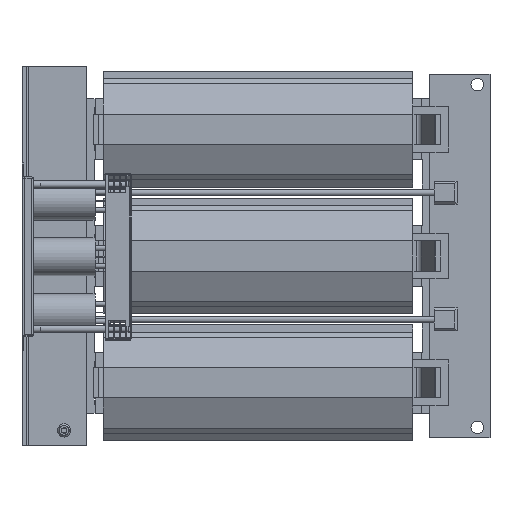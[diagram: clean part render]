
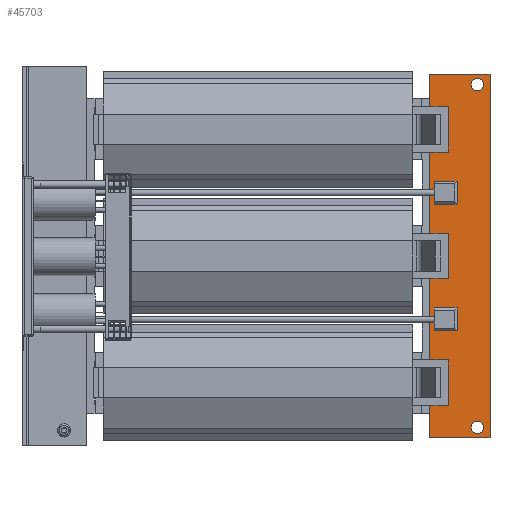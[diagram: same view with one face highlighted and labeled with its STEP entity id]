
A CAD part, front view. The second image highlights one B-rep face of the part: STEP entity #45703.
In plain terms, the highlighted planar face has unit normal (0, -1, 0).
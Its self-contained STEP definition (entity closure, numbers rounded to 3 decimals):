
#967=FACE_BOUND('',#6352,.T.);
#968=FACE_BOUND('',#6353,.T.);
#969=FACE_BOUND('',#6354,.T.);
#970=FACE_BOUND('',#6355,.T.);
#1805=CIRCLE('',#48189,12.5);
#1808=CIRCLE('',#48194,12.5);
#3815=FACE_OUTER_BOUND('',#6351,.T.);
#6351=EDGE_LOOP('',(#32922,#32923,#32924,#32925));
#6352=EDGE_LOOP('',(#32926,#32927,#32928,#32929));
#6353=EDGE_LOOP('',(#32930,#32931,#32932,#32933));
#6354=EDGE_LOOP('',(#32934));
#6355=EDGE_LOOP('',(#32935));
#10214=LINE('',#66699,#15024);
#10237=LINE('',#66766,#15047);
#10469=LINE('',#67309,#15279);
#10472=LINE('',#67314,#15282);
#10474=LINE('',#67317,#15284);
#10478=LINE('',#67323,#15288);
#10480=LINE('',#67327,#15290);
#10482=LINE('',#67330,#15292);
#10650=LINE('',#67703,#15460);
#10654=LINE('',#67710,#15464);
#10657=LINE('',#67716,#15467);
#10659=LINE('',#67719,#15469);
#15024=VECTOR('',#54081,45.);
#15047=VECTOR('',#54136,45.);
#15279=VECTOR('',#54586,45.);
#15282=VECTOR('',#54591,45.);
#15284=VECTOR('',#54595,45.);
#15288=VECTOR('',#54601,45.);
#15290=VECTOR('',#54605,45.);
#15292=VECTOR('',#54609,45.);
#15460=VECTOR('',#54935,716.);
#15464=VECTOR('',#54941,120.);
#15467=VECTOR('',#54946,716.);
#15469=VECTOR('',#54950,120.);
#19354=VERTEX_POINT('',#66696);
#19355=VERTEX_POINT('',#66698);
#19379=VERTEX_POINT('',#66756);
#19383=VERTEX_POINT('',#66764);
#19585=VERTEX_POINT('',#67308);
#19586=VERTEX_POINT('',#67313);
#19587=VERTEX_POINT('',#67321);
#19588=VERTEX_POINT('',#67325);
#19686=VERTEX_POINT('',#67583);
#19689=VERTEX_POINT('',#67591);
#19713=VERTEX_POINT('',#67700);
#19714=VERTEX_POINT('',#67702);
#19716=VERTEX_POINT('',#67708);
#19718=VERTEX_POINT('',#67714);
#24171=EDGE_CURVE('',#19355,#19354,#10214,.T.);
#24200=EDGE_CURVE('',#19379,#19383,#10237,.T.);
#24467=EDGE_CURVE('',#19585,#19379,#10469,.T.);
#24470=EDGE_CURVE('',#19586,#19585,#10472,.T.);
#24472=EDGE_CURVE('',#19383,#19586,#10474,.T.);
#24476=EDGE_CURVE('',#19354,#19587,#10478,.T.);
#24478=EDGE_CURVE('',#19587,#19588,#10480,.T.);
#24480=EDGE_CURVE('',#19588,#19355,#10482,.T.);
#24601=EDGE_CURVE('',#19686,#19686,#1805,.T.);
#24604=EDGE_CURVE('',#19689,#19689,#1808,.T.);
#24660=EDGE_CURVE('',#19714,#19713,#10650,.T.);
#24664=EDGE_CURVE('',#19713,#19716,#10654,.T.);
#24667=EDGE_CURVE('',#19716,#19718,#10657,.T.);
#24669=EDGE_CURVE('',#19718,#19714,#10659,.T.);
#32922=ORIENTED_EDGE('',*,*,#24669,.T.);
#32923=ORIENTED_EDGE('',*,*,#24660,.T.);
#32924=ORIENTED_EDGE('',*,*,#24664,.T.);
#32925=ORIENTED_EDGE('',*,*,#24667,.T.);
#32926=ORIENTED_EDGE('',*,*,#24200,.T.);
#32927=ORIENTED_EDGE('',*,*,#24472,.T.);
#32928=ORIENTED_EDGE('',*,*,#24470,.T.);
#32929=ORIENTED_EDGE('',*,*,#24467,.T.);
#32930=ORIENTED_EDGE('',*,*,#24171,.T.);
#32931=ORIENTED_EDGE('',*,*,#24476,.T.);
#32932=ORIENTED_EDGE('',*,*,#24478,.T.);
#32933=ORIENTED_EDGE('',*,*,#24480,.T.);
#32934=ORIENTED_EDGE('',*,*,#24601,.T.);
#32935=ORIENTED_EDGE('',*,*,#24604,.T.);
#41682=PLANE('',#48232);
#45703=ADVANCED_FACE('',(#3815,#967,#968,#969,#970),#41682,.F.);
#48189=AXIS2_PLACEMENT_3D('',#67584,#54805,#54806);
#48194=AXIS2_PLACEMENT_3D('',#67592,#54815,#54816);
#48232=AXIS2_PLACEMENT_3D('',#67730,#54960,#54961);
#54081=DIRECTION('',(0.,0.,1.));
#54136=DIRECTION('',(0.,0.,1.));
#54586=DIRECTION('',(-1.,0.,0.));
#54591=DIRECTION('',(0.,0.,-1.));
#54595=DIRECTION('',(1.,0.,0.));
#54601=DIRECTION('',(1.,0.,0.));
#54605=DIRECTION('',(0.,0.,-1.));
#54609=DIRECTION('',(-1.,0.,0.));
#54805=DIRECTION('center_axis',(0.,1.,0.));
#54806=DIRECTION('ref_axis',(1.,0.,0.));
#54815=DIRECTION('center_axis',(0.,1.,0.));
#54816=DIRECTION('ref_axis',(1.,0.,0.));
#54935=DIRECTION('',(0.,0.,-1.));
#54941=DIRECTION('',(1.,0.,0.));
#54946=DIRECTION('',(0.,0.,1.));
#54950=DIRECTION('',(-1.,0.,0.));
#54960=DIRECTION('center_axis',(0.,1.,0.));
#54961=DIRECTION('ref_axis',(0.,0.,-1.));
#66696=CARTESIAN_POINT('',(813.,-88.,147.5));
#66698=CARTESIAN_POINT('',(813.,-88.,102.5));
#66699=CARTESIAN_POINT('',(813.,-88.,102.5));
#66756=CARTESIAN_POINT('',(813.,-88.,-147.5));
#66764=CARTESIAN_POINT('',(813.,-88.,-102.5));
#66766=CARTESIAN_POINT('',(813.,-88.,-147.5));
#67308=CARTESIAN_POINT('',(858.,-88.,-147.5));
#67309=CARTESIAN_POINT('',(858.,-88.,-147.5));
#67313=CARTESIAN_POINT('',(858.,-88.,-102.5));
#67314=CARTESIAN_POINT('',(858.,-88.,-102.5));
#67317=CARTESIAN_POINT('',(813.,-88.,-102.5));
#67321=CARTESIAN_POINT('',(858.,-88.,147.5));
#67323=CARTESIAN_POINT('',(813.,-88.,147.5));
#67325=CARTESIAN_POINT('',(858.,-88.,102.5));
#67327=CARTESIAN_POINT('',(858.,-88.,147.5));
#67330=CARTESIAN_POINT('',(858.,-88.,102.5));
#67583=CARTESIAN_POINT('',(885.5,-88.,338.));
#67584=CARTESIAN_POINT('Origin',(898.,-88.,338.));
#67591=CARTESIAN_POINT('',(885.5,-88.,-338.));
#67592=CARTESIAN_POINT('Origin',(898.,-88.,-338.));
#67700=CARTESIAN_POINT('',(803.,-88.,-358.));
#67702=CARTESIAN_POINT('',(803.,-88.,358.));
#67703=CARTESIAN_POINT('',(803.,-88.,358.));
#67708=CARTESIAN_POINT('',(923.,-88.,-358.));
#67710=CARTESIAN_POINT('',(803.,-88.,-358.));
#67714=CARTESIAN_POINT('',(923.,-88.,358.));
#67716=CARTESIAN_POINT('',(923.,-88.,-358.));
#67719=CARTESIAN_POINT('',(923.,-88.,358.));
#67730=CARTESIAN_POINT('Origin',(863.,-88.,0.));
